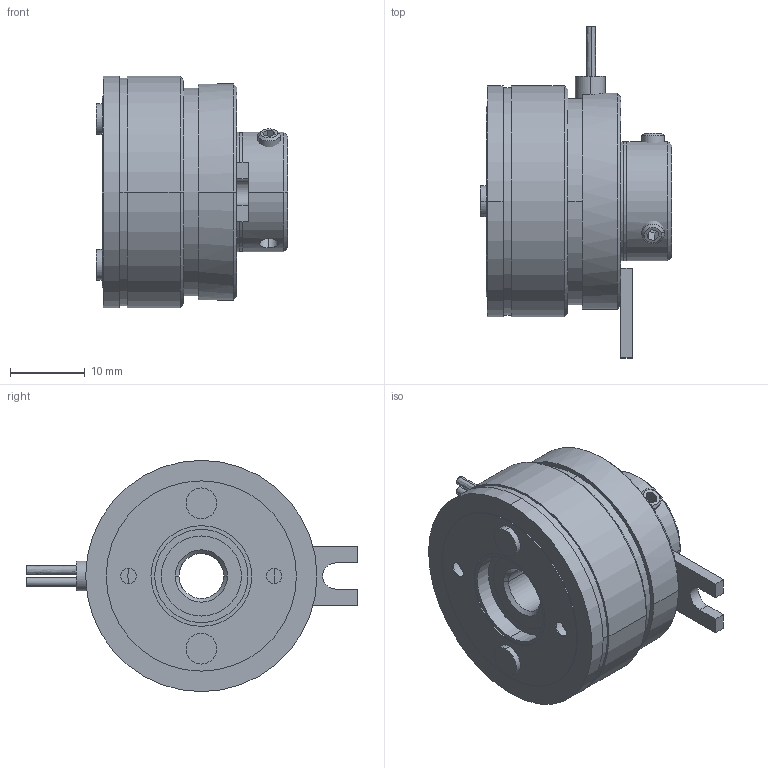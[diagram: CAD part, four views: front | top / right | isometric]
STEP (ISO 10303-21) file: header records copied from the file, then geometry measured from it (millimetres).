
FILE_DESCRIPTION((''),'2;1');
FILE_NAME('G:\Konstruktion\Datenkonvertierung\step\14.100.02.303.stp','2004-01-30T08:10:08',('schöttelndreier'),(''),'Autodesk Inventor 8','Autodesk Inventor 8','');
FILE_SCHEMA(('AUTOMOTIVE_DESIGN { 1 0 10303 214 1 1 1 1 }'));
Length unit declared in the file: millimetre
Products named in the file (19): 14.100.02.303; 14.100.02.995-001 dxf; 14.100.02.999-001 dxf; 14.102.02-18.202 dxf; Abdeck; Spule_02 dxf; Lager; 14.100.02.996-001 dxf; 14.100.02.992-154 dxf; 14.100.02.992-300 dxf; Spritzmasse; Reibbelag_02 dxf; 14.100.02.991-300; 14.100.02.991-251; DIN 916  (Regelgewinde) M3  x  6; 14.100.02.003-001; 14.100.02.993-001; 30.4.101-142; Niete
Assembly tree (21 placements, depth 3):
  14.100.02.303
    14.100.02.995-001 dxf
      14.100.02.999-001 dxf
      14.102.02-18.202 dxf
      Abdeck
      Spule_02 dxf
      Lager
    14.100.02.996-001 dxf
      14.100.02.992-154 dxf
      14.100.02.992-300 dxf
      Spritzmasse
      Reibbelag_02 dxf
    14.100.02.991-300  x2
    14.100.02.991-251
    DIN 916  (Regelgewinde) M3  x  6  x2
    14.100.02.003-001
      14.100.02.993-001
      30.4.101-142
      Niete  x2
Bounding box: 25.64 x 44.5 x 31 mm (x, y, z)
Volume: 12232.4 mm3; surface area: 16624.9 mm2
Topology: 18 solids, 18 shells, 272 faces, 621 edges, 390 vertices
Faces by surface type: cylinder 128, plane 90, cone 49, bspline 3, torus 2
Entity records: 7813 total; most frequent: CARTESIAN_POINT 1754, DIRECTION 1282, ORIENTED_EDGE 1070, EDGE_CURVE 535, AXIS2_PLACEMENT_3D 528, VERTEX_POINT 344, EDGE_LOOP 293, CIRCLE 259
